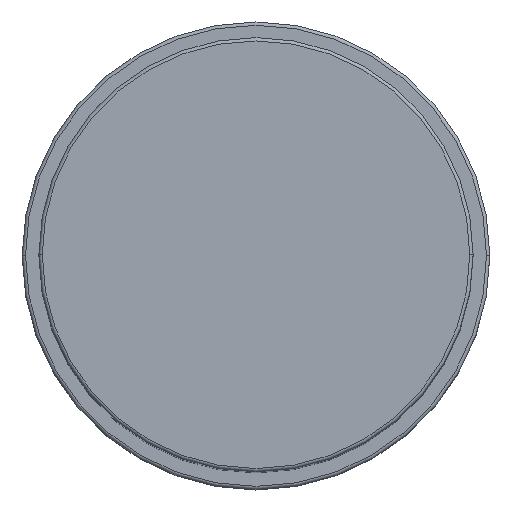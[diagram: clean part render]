
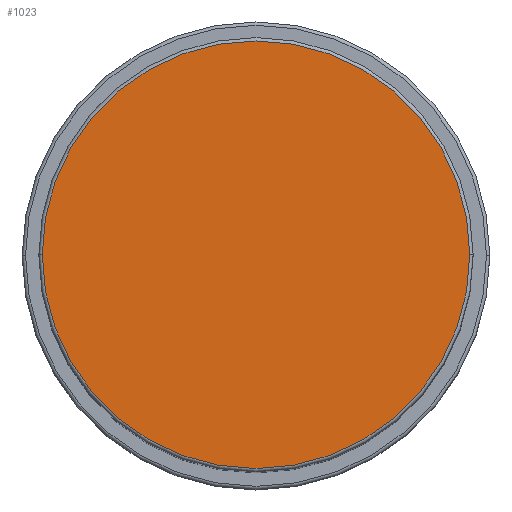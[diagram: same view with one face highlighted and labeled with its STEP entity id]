
A CAD part, top view. The second image highlights one B-rep face of the part: STEP entity #1023.
In plain terms, the highlighted planar face has unit normal (0, 0, 1).
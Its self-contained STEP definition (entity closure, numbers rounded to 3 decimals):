
#178 = AXIS2_PLACEMENT_3D ( 'NONE', #2876, #2910, #2046 ) ;
#189 = EDGE_LOOP ( 'NONE', ( #4521, #1650 ) ) ;
#522 = DIRECTION ( 'NONE',  ( 1., 0., 0. ) ) ;
#1023 = ADVANCED_FACE ( 'NONE', ( #4700 ), #2608, .T. ) ;
#1045 = EDGE_CURVE ( 'NONE', #3717, #3193, #3855, .T. ) ;
#1342 = DIRECTION ( 'NONE',  ( 0., 0., 1. ) ) ;
#1502 = CARTESIAN_POINT ( 'NONE',  ( -32., 0., 122. ) ) ;
#1650 = ORIENTED_EDGE ( 'NONE', *, *, #4494, .T. ) ;
#2046 = DIRECTION ( 'NONE',  ( 1., 0., 0. ) ) ;
#2349 = AXIS2_PLACEMENT_3D ( 'NONE', #3453, #1342, #522 ) ;
#2573 = CARTESIAN_POINT ( 'NONE',  ( 0., 0., 122. ) ) ;
#2608 = PLANE ( 'NONE',  #4960 ) ;
#2635 = DIRECTION ( 'NONE',  ( 0., 0., 1. ) ) ;
#2710 = CARTESIAN_POINT ( 'NONE',  ( 32., 0., 122. ) ) ;
#2876 = CARTESIAN_POINT ( 'NONE',  ( 0., 0., 122. ) ) ;
#2910 = DIRECTION ( 'NONE',  ( 0., 0., 1. ) ) ;
#3193 = VERTEX_POINT ( 'NONE', #1502 ) ;
#3453 = CARTESIAN_POINT ( 'NONE',  ( 0., 0., 122. ) ) ;
#3717 = VERTEX_POINT ( 'NONE', #2710 ) ;
#3855 = CIRCLE ( 'NONE', #2349, 32. ) ;
#3868 = DIRECTION ( 'NONE',  ( 1., 0., 0. ) ) ;
#4494 = EDGE_CURVE ( 'NONE', #3193, #3717, #5084, .T. ) ;
#4521 = ORIENTED_EDGE ( 'NONE', *, *, #1045, .T. ) ;
#4700 = FACE_OUTER_BOUND ( 'NONE', #189, .T. ) ;
#4960 = AXIS2_PLACEMENT_3D ( 'NONE', #2573, #2635, #3868 ) ;
#5084 = CIRCLE ( 'NONE', #178, 32. ) ;
